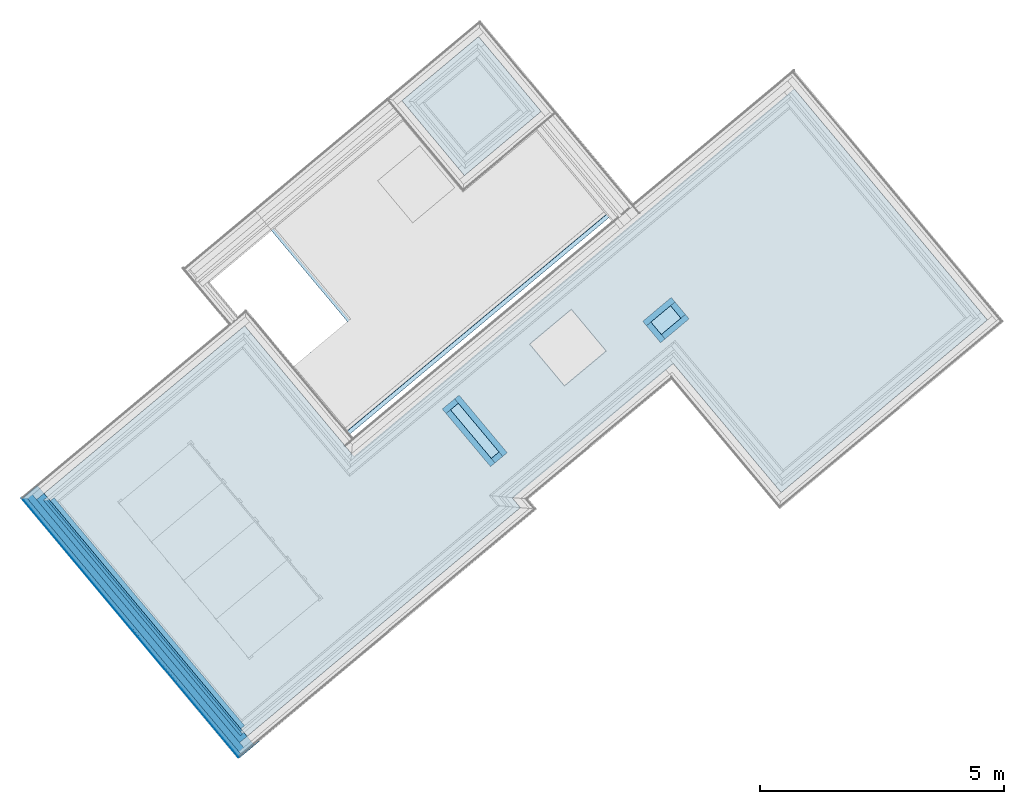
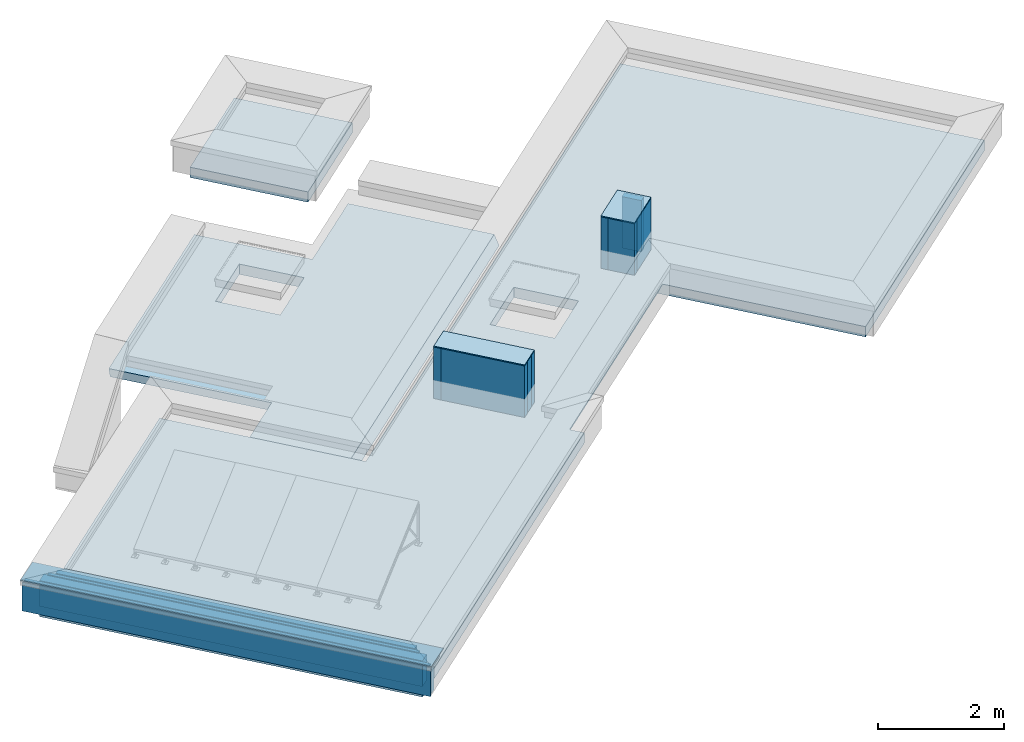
# One storey, part 1 of 15: 8 building element parts, 8 walls, 3 roofs, 2 plates, 1 element without a shape of its own.
"""IFC4 building model written with IfcOpenShell, lengths in metres."""

from ifc_helpers import new_model, entity, si_unit, converted_unit, derived_unit, direction, frame, origin_with_axes, place, context, subcontext, project, spatial, polygons, material, type_object, element, aggregate, save


model = new_model("IFC4")

# Units and contexts
model_context = context("Model", 3, precision=1e-05, world=origin_with_axes(), true_north=direction((0.0, 1.0)))
body_context = subcontext(model_context, "Body", "Model", "MODEL_VIEW")
ifc_project = project(units=[si_unit("LENGTHUNIT", "METRE"), si_unit("AREAUNIT", "SQUARE_METRE"), si_unit("VOLUMEUNIT", "CUBIC_METRE"), converted_unit("PLANEANGLEUNIT", "DEGREE", entity("IfcPlaneAngleMeasure", 0.0174532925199), si_unit("PLANEANGLEUNIT", "RADIAN"), dimensions=[0, 0, 0, 0, 0, 0, 0]), converted_unit("TIMEUNIT", "Year", entity("IfcTimeMeasure", 31556926.0), si_unit("TIMEUNIT", "SECOND"), dimensions=[0, 0, 1, 0, 0, 0, 0]), si_unit("MASSUNIT", "GRAM", prefix="KILO"), si_unit("THERMODYNAMICTEMPERATUREUNIT", "DEGREE_CELSIUS"), si_unit("LUMINOUSINTENSITYUNIT", "LUMEN"), si_unit("ENERGYUNIT", "JOULE", prefix="MEGA"), derived_unit("THERMALCONDUCTANCEUNIT", [(si_unit("POWERUNIT", "WATT"), 1), (si_unit("LENGTHUNIT", "METRE"), -1), (si_unit("THERMODYNAMICTEMPERATUREUNIT", "KELVIN"), -1)]), derived_unit("SPECIFICHEATCAPACITYUNIT", [(si_unit("ENERGYUNIT", "JOULE"), 1), (si_unit("MASSUNIT", "GRAM", prefix="KILO"), -1), (si_unit("THERMODYNAMICTEMPERATUREUNIT", "KELVIN"), -1)]), derived_unit("MASSDENSITYUNIT", [(si_unit("MASSUNIT", "GRAM", prefix="KILO"), 1), (si_unit("VOLUMEUNIT", "CUBIC_METRE"), -1)])], contexts=[model_context])

# Site, building, storey
site_placement = place(None, frame((-0.00153261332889, -0.00661245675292, 0.0), z_axis=(0.0, 0.0, 1.0), x_axis=(1.0, 0.0, 0.0)))
site = spatial("IfcSite", under=ifc_project, at=site_placement, Name="Site", CompositionType="ELEMENT")
building_placement = place(site_placement, origin_with_axes())
building = spatial("IfcBuilding", under=site, at=building_placement, Name="Building", CompositionType="ELEMENT")
storey_placement = place(building_placement, frame((0.0, 0.0, 11.84), z_axis=(0.0, 0.0, 1.0), x_axis=(1.0, 0.0, 0.0)))
storey = spatial("IfcBuildingStorey", under=building, at=storey_placement, Name="DA", CompositionType="ELEMENT", Elevation=11.84)

# Plates
ifc_material_1 = material(Name="Blech")
plate_type = type_object("IfcPlateType", Name="Blech 20", PredefinedType="NOTDEFINED")
plate_1_placement = place(storey_placement, frame((0.883157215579, 19.7164409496, 1.0), z_axis=(0.0, 0.0, 1.0), x_axis=(0.769608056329, 0.638516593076, 0.0)))
element("IfcPlate", 1, at=plate_1_placement, inside=storey, type_object=plate_type, material=ifc_material_1, Name="Dach-002", PredefinedType="NOTDEFINED", context=body_context, shape_type="Tessellation", body=[
    polygons([(0.448840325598, 0.0, 0.02), (0.448840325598, 0.0, 0.0), (0.0, 0.0, 0.0), (0.0, 0.0, 0.02), (0.454235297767, -1.53957077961, 0.02), (0.454235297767, -1.53957077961, 0.0), (0.00809973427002, -1.54113413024, 0.0), (0.00809973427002, -1.54113413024, 0.02)], [[[1, 2, 3, 4]], [[5, 6, 2, 1]], [[3, 2, 6, 7]], [[4, 3, 7, 8]], [[5, 1, 4, 8]], [[8, 7, 6, 5]]], closed=True),
])
plate_2_placement = place(storey_placement, frame((4.99291504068, 21.5151888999, 1.0), z_axis=(0.0, 0.0, 1.0), x_axis=(0.767365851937, 0.641209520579, 0.0)))
element("IfcPlate", 2, at=plate_2_placement, inside=storey, type_object=plate_type, material=ifc_material_1, Name="Dach-003", PredefinedType="NOTDEFINED", context=body_context, shape_type="Tessellation", body=[
    polygons([(0.764405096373, 0.0, 0.02), (0.764405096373, 0.0, 0.0), (0.0, 0.0, 0.0), (0.0, 0.0, 0.02), (0.763279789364, -0.572701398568, 0.02), (0.763279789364, -0.572701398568, 0.0), (0.0, -0.572701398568, 0.0), (0.0, -0.572701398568, 0.02)], [[[1, 2, 3, 4]], [[5, 6, 2, 1]], [[3, 2, 6, 7]], [[4, 3, 7, 8]], [[5, 1, 4, 8]], [[8, 7, 6, 5]]], closed=True),
])

# Walls
ifc_material_2 = material(Name="Stahlbeton Decke Garage")
wall_type_1 = type_object("IfcWallType", Name="Stahlbeton Decke Garage 120", PredefinedType="NOTDEFINED")
wall_1_placement = place(storey_placement, frame((5.56417353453, 21.8361523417, 0.0), z_axis=(0.0, 0.0, 1.0), x_axis=(-0.767365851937, -0.641209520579, 0.0)))
element("IfcWall", 3, at=wall_1_placement, inside=storey, type_object=wall_type_1, material=ifc_material_2, Name="Wand-003", PredefinedType="NOTDEFINED", context=body_context, shape_type="Tessellation", body=[
    polygons([(0.644169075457, -0.12, 1.0), (0.644169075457, 0.0, 1.0), (-0.120000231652, 0.0, 1.0), (-0.120236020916, -0.12, 1.0), (0.644169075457, -0.12, 0.0), (0.644169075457, 0.0, 0.0), (-0.120000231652, 0.0, 0.0), (-0.120236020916, -0.12, 0.0)], [[[1, 2, 3, 4]], [[2, 1, 5, 6]], [[2, 6, 7, 3]], [[8, 4, 3, 7]], [[5, 1, 4, 8]], [[6, 5, 8, 7]]], closed=True),
])
wall_2_placement = place(storey_placement, frame((5.16194408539, 21.5000501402, 0.0), z_axis=(0.0, 0.0, 1.0), x_axis=(0.641209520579, -0.767365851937, 0.0)))
element("IfcWall", 4, at=wall_2_placement, inside=storey, type_object=wall_type_1, material=ifc_material_2, Name="Wand-004", PredefinedType="NOTDEFINED", context=body_context, shape_type="Tessellation", body=[
    polygons([(0.452701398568, -0.12, 1.0), (0.452701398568, 0.0, 1.0), (0.0, 0.0, 1.0), (0.0, -0.12, 1.0), (0.452701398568, -0.12, 0.0), (0.452701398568, 0.0, 0.0), (0.0, 0.0, 0.0), (0.0, -0.12, 0.0)], [[[1, 2, 3, 4]], [[2, 1, 5, 6]], [[2, 6, 7, 3]], [[8, 4, 3, 7]], [[5, 1, 4, 8]], [[6, 5, 8, 7]]], closed=True),
])
wall_3_placement = place(storey_placement, frame((5.37527538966, 21.244746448, 0.0), z_axis=(0.0, 0.0, 1.0), x_axis=(0.767365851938, 0.641209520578, 0.0)))
element("IfcWall", 5, at=wall_3_placement, inside=storey, type_object=wall_type_1, material=ifc_material_2, Name="Wand-005", PredefinedType="NOTDEFINED", context=body_context, shape_type="Tessellation", body=[
    polygons([(0.643279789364, -0.12, 1.0), (0.643515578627, 0.0, 1.0), (0.0, 0.0, 1.0), (0.0, -0.12, 1.0), (0.643279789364, -0.12, 0.0), (0.643515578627, 0.0, 0.0), (0.0, 0.0, 0.0), (0.0, -0.12, 0.0)], [[[1, 2, 3, 4]], [[2, 1, 5, 6]], [[2, 6, 7, 3]], [[8, 4, 3, 7]], [[5, 1, 4, 8]], [[6, 5, 8, 7]]], closed=True),
])
wall_4_placement = place(storey_placement, frame((5.77700318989, 21.5804294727, 0.0), z_axis=(0.0, 0.0, 1.0), x_axis=(-0.639700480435, 0.768624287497, 0.0)))
element("IfcWall", 6, at=wall_4_placement, inside=storey, type_object=wall_type_1, material=ifc_material_2, Name="Wand-006", PredefinedType="NOTDEFINED", context=body_context, shape_type="Tessellation", body=[
    polygons([(0.33293783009, -0.12, 1.0), (0.332702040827, 0.0, 1.0), (0.0, 0.0, 1.0), (0.000235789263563, -0.12, 1.0), (0.33293783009, -0.12, 0.0), (0.332702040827, 0.0, 0.0), (0.0, 0.0, 0.0), (0.000235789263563, -0.12, 0.0)], [[[1, 2, 3, 4]], [[2, 1, 5, 6]], [[2, 6, 7, 3]], [[8, 4, 3, 7]], [[5, 1, 4, 8]], [[6, 5, 8, 7]]], closed=True),
])
wall_5_placement = place(storey_placement, frame((2.0467528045, 18.8367504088, 0.0), z_axis=(0.0, 0.0, 1.0), x_axis=(-0.641209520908, 0.767365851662, 0.0)))
element("IfcWall", 7, at=wall_5_placement, inside=storey, type_object=wall_type_1, material=ifc_material_2, Name="Wand-007", PredefinedType="NOTDEFINED", context=body_context, shape_type="Tessellation", body=[
    polygons([(1.41958023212, -0.12, 1.0), (1.42000073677, 0.0, 1.0), (-0.12, 0.0, 1.0), (-0.12, -0.12, 1.0), (1.41958023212, -0.12, 0.0), (1.42000073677, 0.0, 0.0), (-0.12, 0.0, 0.0), (-0.12, -0.12, 0.0)], [[[1, 2, 3, 4]], [[2, 1, 5, 6]], [[2, 6, 7, 3]], [[8, 4, 3, 7]], [[5, 1, 4, 8]], [[6, 5, 8, 7]]], closed=True),
])
wall_6_placement = place(storey_placement, frame((1.21318042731, 19.834326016, 0.0), z_axis=(0.0, 0.0, 1.0), x_axis=(-0.769608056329, -0.638516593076, 0.0)))
element("IfcWall", 8, at=wall_6_placement, inside=storey, type_object=wall_type_1, material=ifc_material_2, Name="Wand-008", PredefinedType="NOTDEFINED", context=body_context, shape_type="Tessellation", body=[
    polygons([(0.329260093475, -0.12, 1.0), (0.328629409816, 0.0, 1.0), (0.0, 0.0, 1.0), (0.000420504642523, -0.12, 1.0), (0.329260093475, -0.12, 0.0), (0.328629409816, 0.0, 0.0), (0.0, 0.0, 0.0), (0.000420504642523, -0.12, 0.0)], [[[1, 2, 3, 4]], [[2, 1, 5, 6]], [[2, 6, 7, 3]], [[8, 4, 3, 7]], [[5, 1, 4, 8]], [[6, 5, 8, 7]]], closed=True),
])
wall_7_placement = place(storey_placement, frame((1.05261882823, 19.7011137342, 0.0), z_axis=(0.0, 0.0, 1.0), x_axis=(0.642552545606, -0.766241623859, 0.0)))
element("IfcWall", 9, at=wall_7_placement, inside=storey, type_object=wall_type_1, material=ifc_material_2, Name="Wand-009", PredefinedType="NOTDEFINED", context=body_context, shape_type="Tessellation", body=[
    polygons([(1.42052307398, -0.12, 1.0), (1.42073324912, 0.0, 1.0), (0.0, 0.0, 1.0), (-0.000630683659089, -0.12, 1.0), (1.42052307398, -0.12, 0.0), (1.42073324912, 0.0, 0.0), (0.0, 0.0, 0.0), (-0.000630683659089, -0.12, 0.0)], [[[1, 2, 3, 4]], [[2, 1, 5, 6]], [[2, 6, 7, 3]], [[8, 4, 3, 7]], [[5, 1, 4, 8]], [[6, 5, 8, 7]]], closed=True),
])
wall_8_placement = place(storey_placement, frame((1.88840817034, 18.7044379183, 0.0), z_axis=(0.0, 0.0, 1.0), x_axis=(0.767365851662, 0.641209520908, 0.0)))
element("IfcWall", 10, at=wall_8_placement, inside=storey, type_object=wall_type_1, material=ifc_material_2, Name="Wand-010", PredefinedType="NOTDEFINED", context=body_context, shape_type="Tessellation", body=[
    polygons([(0.206348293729, -0.12, 1.0), (0.206348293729, 0.0, 1.0), (0.0, 0.0, 1.0), (0.000210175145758, -0.12, 1.0), (0.206348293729, -0.12, 0.0), (0.206348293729, 0.0, 0.0), (0.0, 0.0, 0.0), (0.000210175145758, -0.12, 0.0)], [[[1, 2, 3, 4]], [[2, 1, 5, 6]], [[2, 6, 7, 3]], [[8, 4, 3, 7]], [[5, 1, 4, 8]], [[6, 5, 8, 7]]], closed=True),
])

# Roofs
ifc_material_3 = material(Name="Stahlbeton Dach")
roof_type_1 = type_object("IfcRoofType", Name="Stahlbeton Dach 200", PredefinedType="NOTDEFINED")
roof_1_placement = place(storey_placement, frame((2.91104067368, 25.8183617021, 0.75), z_axis=(0.0, 0.0, 1.0), x_axis=(-0.767364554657, -0.641211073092, 0.0)))
element("IfcRoof", 11, at=roof_1_placement, inside=storey, type_object=roof_type_1, material=ifc_material_3, Name="Dach-002", PredefinedType="NOTDEFINED", context=body_context, shape_type="Tessellation", body=[
    polygons([(0.0, 0.0, 0.2), (0.0, 0.0, 0.0), (-3.73865736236e-06, -2.00114414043, 0.0), (-3.73865736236e-06, -2.00114414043, 0.2), (2.04968259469, 0.0, 0.2), (2.04968259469, 0.0, 0.0), (2.04955288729, -2.00114828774, 0.0), (2.04955288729, -2.00114828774, 0.2)], [[[1, 2, 3, 4]], [[5, 6, 2, 1]], [[3, 2, 6, 7]], [[4, 3, 7, 8]], [[5, 1, 4, 8]], [[8, 7, 6, 5]]], closed=True),
])
ifc_material_4 = material(Name="Stahlbeton Decke")
roof_type_2 = type_object("IfcRoofType", Name="Stahlbeton Decke 200", PredefinedType="NOTDEFINED")
roof_2_placement = place(storey_placement, frame((0.355631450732, 20.6791553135, -0.69), z_axis=(0.0, 0.0, 1.0), x_axis=(0.767529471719, 0.641013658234, 0.0)))
element("IfcRoof", 12, at=roof_2_placement, inside=storey, type_object=roof_type_2, material=ifc_material_4, Name="Dach-002", PredefinedType="NOTDEFINED", context=body_context, shape_type="Tessellation", body=[
    polygons([(-0.555171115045, 4.30609490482, 0.2), (-0.554466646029, 1.54577313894, 0.2), (-2.02612050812, 1.54535500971, 0.2), (-2.02579644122, -0.174320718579, 0.2), (5.05510968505, -0.172963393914, 0.2), (5.05565338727, 2.30641503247, 0.2), (3.4050586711, 2.30677699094, 0.2), (3.4054973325, 4.30701724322, 0.2), (1.78300213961, 2.2545607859, 0.2), (1.7827743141, 3.35273443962, 0.2), (2.88262695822, 3.35296261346, 0.2), (2.88285478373, 2.25478895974, 0.2), (-0.492111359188, 4.30610959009, -1.86265225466e-10), (-0.491406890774, 1.54579105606, -1.86265225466e-10), (-2.0261205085, 1.54535500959, -1.86265225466e-10), (-2.0257808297, -0.25716343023, -1.86265225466e-10), (5.05509151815, -0.255806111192, -1.86265225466e-10), (5.05565338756, 2.30641503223, -1.86265225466e-10), (3.40505867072, 2.30677699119, -1.86265225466e-10), (3.4054973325, 4.30701724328, -1.86265225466e-10), (1.78300213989, 2.25456078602, -1.86265225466e-10), (1.7827743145, 3.35273443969, -1.86265225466e-10), (2.88262695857, 3.35296261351, -1.86265225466e-10), (2.88285478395, 2.25478895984, -1.86265225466e-10)], [[[1, 2, 3, 4, 5, 6, 7, 8], [9, 10, 11, 12]], [[2, 1, 13, 14]], [[3, 2, 14, 15]], [[4, 3, 15, 16]], [[5, 4, 16, 17]], [[6, 5, 17, 18]], [[7, 6, 18, 19]], [[8, 7, 19, 20]], [[1, 8, 20, 13]], [[10, 9, 21, 22]], [[11, 10, 22, 23]], [[12, 11, 23, 24]], [[9, 12, 24, 21]], [[14, 13, 20, 19, 18, 17, 16, 15], [22, 21, 24, 23]]], closed=True),
])
roof_3_placement = place(storey_placement, frame((-7.43474309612, 17.8596956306, -0.2), z_axis=(0.0, 0.0, 1.0), x_axis=(0.767365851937, 0.641209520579, 0.0)))
element("IfcRoof", 13, at=roof_3_placement, inside=storey, type_object=roof_type_2, material=ifc_material_4, Name="Dach-002", PredefinedType="NOTDEFINED", context=body_context, shape_type="Tessellation", body=[
    polygons([(5.56001774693, -1.48582036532, 0.2), (5.56011220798, 1.74280188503e-07, 0.2), (-2.73163571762e-08, -3.26907816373e-08, 0.2), (7.51573843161e-08, -6.49219516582, 0.2), (7.50715595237, -6.48730618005, 0.2), (7.5071167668, -6.23732973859, 0.2), (11.8069092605, -6.23495378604, 0.2), (11.8085739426, -9.67906324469, 0.2), (17.3223076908, -9.67547248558, 0.2), (17.3221145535, -3.5001391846, 0.2), (13.0408753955, -3.4959713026, 0.2), (5.56060277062, -3.4954963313, 0.2), (7.90227290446, -5.32986696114, 0.2), (7.69592476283, -5.32986712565, 0.2), (7.69364656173, -4.02913578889, 0.2), (7.90227307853, -4.02986691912, 0.2), (9.80897215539, -5.14230944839, 0.2), (9.80902458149, -4.04413596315, 0.2), (10.9088771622, -4.04418836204, 0.2), (10.9088247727, -5.1423622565, 0.2), (12.0004975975, -5.61633358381, 0.2), (12.0004976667, -5.28363191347, 0.2), (12.5246666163, -5.28363199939, 0.2), (12.5240129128, -5.61633342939, 0.2), (5.56011220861, 1.743285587e-07, -1.86265225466e-10), (5.56001774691, -1.48582036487, -1.86265225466e-10), (-2.75272293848e-08, -3.23356701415e-08, -1.86265225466e-10), (7.47987449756e-08, -6.49219516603, -1.86267001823e-10), (7.50715595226, -6.48730618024, -1.86267001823e-10), (7.50710378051, -6.15448702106, -1.86267001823e-10), (11.8068692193, -6.15211108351, -1.86267001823e-10), (11.8085739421, -9.67906324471, -1.86267001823e-10), (17.3223076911, -9.67547248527, -1.86267001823e-10), (17.3221171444, -3.58298193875, -1.86265225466e-10), (13.040832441, -3.57881401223, -1.86265225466e-10), (5.56062688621, -3.57833904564, -1.86265225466e-10), (7.69592476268, -5.32986712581, -1.86267001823e-10), (7.90227290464, -5.32986696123, -1.86267001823e-10), (7.69364656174, -4.02913578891, -1.86265225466e-10), (7.90227307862, -4.02986691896, -1.86265225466e-10), (9.80902458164, -4.04413596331, -1.86265225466e-10), (9.80897215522, -5.14230944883, -1.86267001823e-10), (10.9088771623, -4.0441883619, -1.86265225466e-10), (10.9088247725, -5.14236225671, -1.86267001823e-10), (12.0004976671, -5.28363191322, -1.86267001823e-10), (12.0004975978, -5.61633358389, -1.86267001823e-10), (12.5246666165, -5.28363199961, -1.86267001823e-10), (12.5240129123, -5.61633342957, -1.86267001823e-10)], [[[1, 2, 3, 4, 5, 6, 7, 8, 9, 10, 11, 12], [13, 14, 15, 16], [17, 18, 19, 20], [21, 22, 23, 24]], [[25, 2, 1, 26]], [[27, 3, 2, 25]], [[28, 4, 3, 27]], [[29, 5, 4, 28]], [[30, 6, 5, 29]], [[31, 7, 6, 30]], [[32, 8, 7, 31]], [[33, 9, 8, 32]], [[34, 10, 9, 33]], [[35, 11, 10, 34]], [[36, 12, 11, 35]], [[26, 1, 12, 36]], [[37, 14, 13, 38]], [[39, 15, 14, 37]], [[40, 16, 15, 39]], [[38, 13, 16, 40]], [[41, 18, 17, 42]], [[43, 19, 18, 41]], [[44, 20, 19, 43]], [[42, 17, 20, 44]], [[45, 22, 21, 46]], [[47, 23, 22, 45]], [[48, 24, 23, 47]], [[46, 21, 24, 48]], [[28, 27, 25, 26, 36, 35, 34, 33, 32, 31, 30, 29], [48, 47, 45, 46], [44, 43, 41, 42], [40, 39, 37, 38]]], closed=True),
])

# Wall, building element parts
wall_type_2 = type_object("IfcWallType", Name="Individuelles Profil 574 x 610", PredefinedType="NOTDEFINED")
wall_9_placement = place(storey_placement, frame((-3.27188579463, 12.8778068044, 0.0), z_axis=(0.0, 0.0, 1.0), x_axis=(-0.641209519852, 0.767365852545, 0.0)))
wall_9 = element("IfcWall", 14, at=wall_9_placement, inside=storey, type_object=wall_type_2, Name="Wand-004", PredefinedType="NOTDEFINED")
ifc_material_5 = material(Name="Zementputz")
building_element_part_1_placement = place(wall_9_placement, origin_with_axes())
building_element_part_1 = element("IfcBuildingElementPart", 15, at=building_element_part_1_placement, material=ifc_material_5, Name="Zementputz", PredefinedType="NOTDEFINED", context=body_context, shape_type="Tessellation", body=[
    polygons([(6.70719506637, 0.199999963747, 0.0), (6.70719506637, 0.199999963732, 0.50000001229), (-0.215130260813, 0.19999996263, 0.50000001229), (-0.215129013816, 0.199999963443, 0.0), (6.70719506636, 0.214999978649, 0.0), (6.70719506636, 0.214999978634, 0.50000001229), (-0.215140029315, 0.214999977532, 0.50000001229), (-0.21513875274, 0.214999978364, 0.0)], [[[1, 2, 3, 4]], [[2, 1, 5, 6]], [[2, 6, 7, 3]], [[4, 3, 7, 8]], [[5, 1, 4, 8]], [[6, 5, 8, 7]]], closed=True),
])
ifc_material_6 = material(Name="Vollholz")
building_element_part_2_placement = place(wall_9_placement, origin_with_axes())
building_element_part_2 = element("IfcBuildingElementPart", 16, at=building_element_part_2_placement, material=ifc_material_6, Name="Vollholz", PredefinedType="NOTDEFINED", context=body_context, shape_type="Tessellation", body=[
    polygons([(6.68219122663, 0.189996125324, 0.584015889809), (6.68219122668, 0.130124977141, 0.584015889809), (6.68223434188, 0.130124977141, 0.575979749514), (6.68223434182, 0.190039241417, 0.575979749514), (6.68218025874, 0.189984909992, 0.586106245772), (-0.190080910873, 0.13012497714, 0.584015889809), (-0.190124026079, 0.130124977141, 0.575979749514), (-0.190135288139, 0.130124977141, 0.573880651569), (-0.19016711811, 0.130124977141, 0.567947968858), (-0.190209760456, 0.130124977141, 0.560000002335), (6.68232007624, 0.130124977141, 0.560000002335), (6.6822774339, 0.130124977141, 0.567947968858), (6.68224560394, 0.130124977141, 0.573880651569), (6.68224560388, 0.190050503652, 0.573880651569), (6.68227743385, 0.190082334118, 0.567947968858), (6.68232007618, 0.190124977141, 0.560000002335), (-0.190248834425, 0.190124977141, 0.560000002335), (-0.190206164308, 0.190082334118, 0.567947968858), (-0.190174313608, 0.190050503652, 0.573880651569), (-0.190163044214, 0.190039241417, 0.575979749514), (-0.190119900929, 0.189996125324, 0.584015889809), (-0.190108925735, 0.189984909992, 0.586106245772)], [[[1, 2, 3, 4]], [[5, 2, 1]], [[3, 2, 6, 7, 8, 9, 10, 11, 12, 13]], [[4, 3, 13, 14]], [[5, 1, 4, 14, 15, 16, 17, 18, 19, 20, 21, 22]], [[2, 5, 22, 6]], [[6, 21, 20, 7]], [[7, 20, 19, 8]], [[8, 19, 18, 9]], [[9, 18, 17, 10]], [[16, 11, 10, 17]], [[15, 12, 11, 16]], [[14, 13, 12, 15]], [[21, 6, 22]]], closed=True),
])
ifc_material_7 = material(Name="EPS 1")
building_element_part_3_placement = place(wall_9_placement, origin_with_axes())
building_element_part_3 = element("IfcBuildingElementPart", 17, at=building_element_part_3_placement, material=ifc_material_7, Name="EPS 1", PredefinedType="NOTDEFINED", context=body_context, shape_type="Tessellation", body=[
    polygons([(6.69219506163, -2.1767352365e-09, 0.498822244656), (6.69219506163, -2.18911822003e-09, 0.5), (-0.200000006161, -3.28642713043e-09, 0.5), (-0.200000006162, -2.17673612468e-09, 0.498822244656), (-0.200000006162, -2.17673612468e-09, 0.491006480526), (-0.200000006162, -2.17673612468e-09, 0.488695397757), (-0.200000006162, -2.17673612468e-09, 0.235000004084), (-0.200000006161, -2.73063083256e-09, 0.0), (6.69219506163, -2.17793694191e-09, 0.0), (6.69219506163, -2.1767352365e-09, 0.235000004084), (6.69219506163, -2.1767352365e-09, 0.488695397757), (6.69219506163, -2.1767352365e-09, 0.491006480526), (6.69219506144, 0.199999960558, 0.5), (6.69219506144, 0.19999996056, 0.498822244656), (-0.200130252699, 0.199999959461, 0.5), (-0.200130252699, 0.19999996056, 0.498822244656), (-0.200130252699, 0.19999996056, 0.491006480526), (-0.200130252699, 0.19999996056, 0.488695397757), (-0.200130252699, 0.19999996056, 0.235000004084), (-0.200130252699, 0.199999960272, 0.0), (6.69219506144, 0.199999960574, 0.0), (6.69219506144, 0.19999996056, 0.235000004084), (6.69219506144, 0.19999996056, 0.488695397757), (6.69219506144, 0.19999996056, 0.491006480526)], [[[1, 2, 3, 4, 5, 6, 7, 8, 9, 10, 11, 12]], [[13, 2, 1, 14]], [[2, 13, 15, 3]], [[4, 3, 15, 16]], [[4, 16, 17, 5]], [[5, 17, 18, 6]], [[6, 18, 19, 7]], [[7, 19, 20, 8]], [[21, 9, 8, 20]], [[22, 10, 9, 21]], [[23, 11, 10, 22]], [[24, 12, 11, 23]], [[14, 1, 12, 24]], [[13, 14, 24, 23, 22, 21, 20, 19, 18, 17, 16, 15]]], closed=True),
])
ifc_material_8 = material(Name="Brettschichtholz")
building_element_part_4_placement = place(wall_9_placement, origin_with_axes())
building_element_part_4 = element("IfcBuildingElementPart", 18, at=building_element_part_4_placement, material=ifc_material_8, Name="Brettschichtholz", PredefinedType="NOTDEFINED", context=body_context, shape_type="Tessellation", body=[
    polygons([(6.70719507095, -0.200000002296, 0.519224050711), (6.7071950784, -0.200000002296, 0.559999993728), (-0.214869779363, -0.200000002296, 0.559999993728), (-0.214869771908, -0.200000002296, 0.519224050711), (-0.21486977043, -0.200000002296, 0.51136132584), (-0.214869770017, -0.200000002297, 0.509050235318), (-0.214869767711, -0.200000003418, 0.50000001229), (6.70719506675, -0.200000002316, 0.50000001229), (6.70719506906, -0.200000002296, 0.509050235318), (6.70719506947, -0.200000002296, 0.51136132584), (6.70719507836, -0.159999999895, 0.559999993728), (6.70719507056, 0.214999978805, 0.519224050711), (6.70719507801, 0.214999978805, 0.559999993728), (6.70719507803, 0.190124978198, 0.559999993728), (6.70719507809, 0.130124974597, 0.559999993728), (6.70719507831, -0.0999999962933, 0.559999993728), (-0.214895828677, -0.159999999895, 0.559999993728), (-0.214934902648, -0.0999999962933, 0.559999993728), (-0.215084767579, 0.130124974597, 0.559999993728), (-0.21512384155, 0.190124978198, 0.559999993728), (-0.215140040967, 0.214999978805, 0.559999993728), (-0.215140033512, 0.214999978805, 0.519224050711), (-0.215140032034, 0.214999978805, 0.51136132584), (-0.215140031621, 0.214999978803, 0.509050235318), (-0.215140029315, 0.214999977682, 0.50000001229), (6.70719506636, 0.214999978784, 0.50000001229), (6.70719506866, 0.214999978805, 0.509050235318), (6.70719506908, 0.214999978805, 0.51136132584)], [[[1, 2, 3, 4, 5, 6, 7, 8, 9, 10]], [[11, 2, 1, 12, 13, 14, 15, 16]], [[2, 11, 17, 3]], [[4, 3, 17, 18, 19, 20, 21, 22]], [[4, 22, 23, 5]], [[5, 23, 24, 6]], [[6, 24, 25, 7]], [[25, 26, 8, 7]], [[27, 9, 8, 26]], [[28, 10, 9, 27]], [[12, 1, 10, 28]], [[13, 12, 28, 27, 26, 25, 24, 23, 22, 21]], [[14, 13, 21, 20]], [[15, 14, 20, 19]], [[16, 15, 19, 18]], [[11, 16, 18, 17]]], closed=True),
])
ifc_material_9 = material(Name="Stahlbeton Wand Garage")
building_element_part_5_placement = place(wall_9_placement, origin_with_axes())
building_element_part_5 = element("IfcBuildingElementPart", 19, at=building_element_part_5_placement, material=ifc_material_9, Name="Stahlbeton Wand Garage", PredefinedType="NOTDEFINED", context=body_context, shape_type="Tessellation", body=[
    polygons([(6.4921950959, -0.200000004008, 0.498822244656), (6.4921950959, -0.200000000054, 0.5), (0.00013024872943, -0.200000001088, 0.5), (0.000130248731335, -0.200000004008, 0.498822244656), (0.000130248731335, -0.200000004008, 0.491006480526), (0.000130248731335, -0.200000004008, 0.488695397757), (0.000130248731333, -0.200000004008, 0.235000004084), (6.4921950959, -0.200000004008, 0.235000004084), (6.4921950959, -0.200000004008, 0.488695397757), (6.4921950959, -0.200000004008, 0.491006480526), (6.49219509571, 0.0, 0.5), (6.49219509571, 0.0, 0.498822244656), (2.16729745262e-09, -1.08799813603e-09, 0.5), (2.16660467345e-09, 0.0, 0.498822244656), (2.16660467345e-09, 0.0, 0.491006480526), (2.16660467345e-09, 0.0, 0.488695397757), (2.16660467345e-09, 0.0, 0.235000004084), (6.4921950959, -0.20000000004, 0.0), (0.000130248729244, -0.200000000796, 0.0), (6.49219509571, 0.0, 0.488695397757), (6.49219509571, 0.0, 0.235000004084), (6.49219509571, 0.0, 0.491006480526), (6.49219509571, 0.0, 0.0), (2.16694928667e-09, -5.4800342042e-10, 0.0)], [[[1, 2, 3, 4, 5, 6, 7, 8, 9, 10]], [[11, 2, 1, 12]], [[2, 11, 13, 3]], [[13, 14, 4, 3]], [[15, 5, 4, 14]], [[16, 6, 5, 15]], [[17, 7, 6, 16]], [[18, 8, 7, 19]], [[20, 9, 8, 21]], [[22, 10, 9, 20]], [[12, 1, 10, 22]], [[11, 12, 22, 20, 21, 23, 24, 17, 16, 15, 14, 13]], [[24, 19, 7, 17]], [[21, 8, 18, 23]], [[23, 18, 19, 24]]], closed=True),
])
building_element_part_6_placement = place(wall_9_placement, origin_with_axes())
building_element_part_6 = element("IfcBuildingElementPart", 20, at=building_element_part_6_placement, material=ifc_material_6, Name="Vollholz", PredefinedType="NOTDEFINED", context=body_context, shape_type="Tessellation", body=[
    polygons([(6.39219510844, -0.1, 0.573880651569), (6.3921951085, -0.160110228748, 0.573880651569), (6.3921951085, -0.160063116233, 0.567947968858), (6.39219510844, -0.1, 0.567947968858), (6.39219510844, -0.1, 0.575979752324), (0.100104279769, -0.160110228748, 0.573880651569), (0.100104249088, -0.160063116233, 0.567947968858), (0.100104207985, -0.16, 0.560000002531), (6.3921951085, -0.16, 0.560000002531), (6.39219510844, -0.1, 0.560000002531), (0.100065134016, -0.1, 0.560000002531), (0.100065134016, -0.1, 0.567947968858), (0.100065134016, -0.1, 0.573880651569), (0.100065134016, -0.1, 0.575979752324)], [[[1, 2, 3, 4]], [[5, 2, 1]], [[3, 2, 6, 7, 8, 9]], [[4, 3, 9, 10]], [[5, 1, 4, 10, 11, 12, 13, 14]], [[2, 5, 14, 6]], [[6, 13, 12, 7]], [[7, 12, 11, 8]], [[10, 9, 8, 11]], [[13, 6, 14]]], closed=True),
])
building_element_part_7_placement = place(wall_9_placement, origin_with_axes())
building_element_part_7 = element("IfcBuildingElementPart", 21, at=building_element_part_7_placement, material=ifc_material_7, Name="EPS 1", PredefinedType="NOTDEFINED", context=body_context, shape_type="Tessellation", body=[
    polygons([(6.29219509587, -0.30000000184, 0.519224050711), (6.29219509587, -0.30000000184, 0.560000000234), (0.20019541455, -0.30000000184, 0.560000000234), (0.20019541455, -0.30000000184, 0.519224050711), (0.20019541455, -0.30000000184, 0.51136132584), (0.20019541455, -0.30000000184, 0.509050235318), (0.20019541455, -0.300000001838, 0.499999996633), (0.200195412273, -0.30000000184, 0.498822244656), (0.200195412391, -0.30000000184, 0.491006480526), (0.200195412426, -0.30000000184, 0.488695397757), (0.200195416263, -0.30000000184, 0.235000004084), (6.29219509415, -0.30000000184, 0.235000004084), (6.29219509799, -0.30000000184, 0.488695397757), (6.29219509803, -0.30000000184, 0.491006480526), (6.29219509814, -0.30000000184, 0.498822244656), (6.29219509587, -0.30000000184, 0.499999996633), (6.29219509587, -0.30000000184, 0.509050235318), (6.29219509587, -0.30000000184, 0.51136132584), (6.29219509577, -0.200000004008, 0.560000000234), (6.29219509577, -0.200000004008, 0.519224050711), (0.200130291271, -0.200000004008, 0.560000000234), (0.200130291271, -0.200000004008, 0.519224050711), (0.200130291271, -0.200000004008, 0.51136132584), (0.200130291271, -0.200000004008, 0.509050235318), (0.200130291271, -0.200000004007, 0.499999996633), (0.200130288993, -0.200000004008, 0.498822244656), (0.200130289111, -0.200000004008, 0.491006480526), (0.200130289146, -0.200000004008, 0.488695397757), (0.200130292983, -0.200000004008, 0.235000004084), (6.29219509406, -0.200000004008, 0.235000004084), (6.2921950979, -0.200000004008, 0.488695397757), (6.29219509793, -0.200000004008, 0.491006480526), (6.29219509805, -0.200000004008, 0.498822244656), (6.29219509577, -0.200000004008, 0.499999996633), (6.29219509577, -0.200000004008, 0.509050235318), (6.29219509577, -0.200000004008, 0.51136132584)], [[[1, 2, 3, 4, 5, 6, 7, 8, 9, 10, 11, 12, 13, 14, 15, 16, 17, 18]], [[19, 2, 1, 20]], [[2, 19, 21, 3]], [[4, 3, 21, 22]], [[4, 22, 23, 5]], [[5, 23, 24, 6]], [[6, 24, 25, 7]], [[7, 25, 26, 8]], [[8, 26, 27, 9]], [[9, 27, 28, 10]], [[10, 28, 29, 11]], [[30, 12, 11, 29]], [[31, 13, 12, 30]], [[32, 14, 13, 31]], [[33, 15, 14, 32]], [[34, 16, 15, 33]], [[35, 17, 16, 34]], [[36, 18, 17, 35]], [[20, 1, 18, 36]], [[19, 20, 36, 35, 34, 33, 32, 31, 30, 29, 28, 27, 26, 25, 24, 23, 22, 21]]], closed=True),
])
ifc_material_10 = material(Name="Holzwerkstoff")
building_element_part_8_placement = place(wall_9_placement, origin_with_axes())
building_element_part_8 = element("IfcBuildingElementPart", 22, at=building_element_part_8_placement, material=ifc_material_10, Name="Holzwerkstoff", PredefinedType="NOTDEFINED", context=body_context, shape_type="Tessellation", body=[
    polygons([(6.6223200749, 0.130124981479, 0.584015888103), (6.68218025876, 0.189984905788, 0.586106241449), (6.68218025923, -0.330634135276, 0.586106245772), (6.62232007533, -0.33056113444, 0.584015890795), (-0.130209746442, 0.130125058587, 0.584015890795), (-0.190108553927, 0.189984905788, 0.586106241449), (6.73219509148, 0.239999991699, 0.587852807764), (6.73219509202, -0.330695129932, 0.587852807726), (6.3320848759, -0.330207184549, 0.573880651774), (6.39219510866, -0.330280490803, 0.575979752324), (6.73219213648, -0.330698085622, 0.587937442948), (-0.239781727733, -0.330698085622, 0.587937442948), (-0.239784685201, -0.330695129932, 0.587852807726), (-0.18976963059, -0.330634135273, 0.586106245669), (-0.129909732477, -0.33056113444, 0.584015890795), (0.100215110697, -0.330280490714, 0.575979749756), (0.160325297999, -0.330207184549, 0.573880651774), (0.330214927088, -0.329999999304, 0.567947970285), (6.16219514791, -0.329999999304, 0.567947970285), (6.39219509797, -0.0999999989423, 0.575979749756), (0.100065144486, -0.0999999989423, 0.575979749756), (-0.240156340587, 0.239999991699, 0.587852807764), (6.73219213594, 0.239997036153, 0.587937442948), (6.33208486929, -0.160110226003, 0.573880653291), (6.73147159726, 0.239276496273, 0.608570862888), (-0.239432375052, 0.239276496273, 0.608570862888), (-0.240153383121, 0.239997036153, 0.587937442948), (0.160214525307, -0.160110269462, 0.573880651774)], [[[1, 2, 3, 4]], [[2, 1, 5, 6]], [[2, 7, 8, 3]], [[9, 10, 4, 3, 8, 11, 12, 13, 14, 15, 16, 17, 18, 19]], [[20, 1, 4, 10]], [[1, 20, 21, 5]], [[6, 5, 15, 14]], [[7, 2, 6, 22]], [[7, 23, 11, 8]], [[9, 24, 20, 10]], [[11, 25, 26, 12]], [[27, 22, 13, 12]], [[22, 6, 14, 13]], [[5, 21, 16, 15]], [[21, 28, 17, 16]], [[28, 18, 17]], [[19, 18, 28, 24]], [[24, 9, 19]], [[20, 24, 28, 21]], [[23, 7, 22, 27, 26, 25]], [[23, 25, 11]], [[26, 27, 12]]], closed=True),
])
aggregate(wall_9, [building_element_part_1, building_element_part_2, building_element_part_3, building_element_part_4, building_element_part_5, building_element_part_6, building_element_part_7, building_element_part_8])

save(model, "model.ifc")
